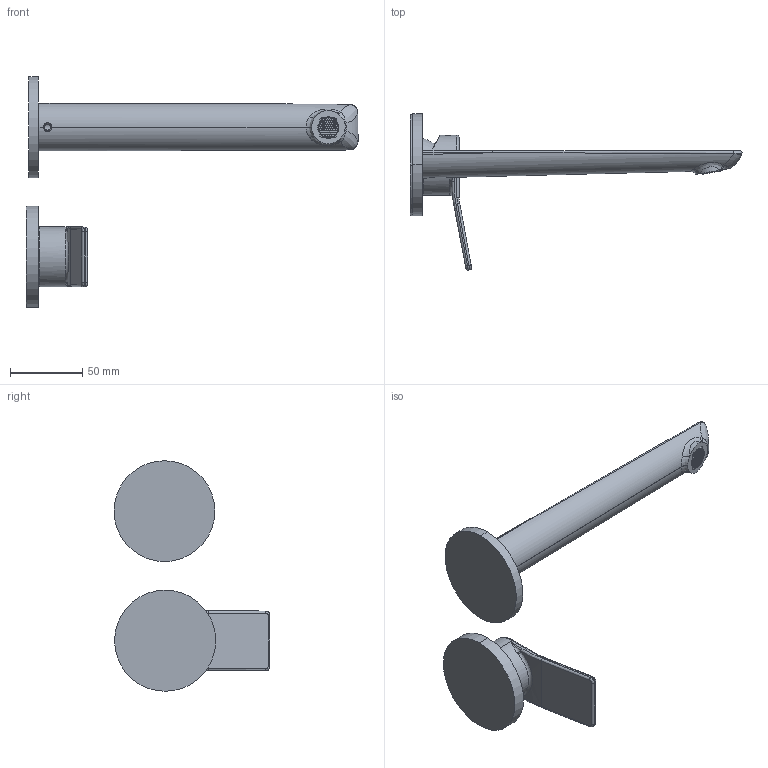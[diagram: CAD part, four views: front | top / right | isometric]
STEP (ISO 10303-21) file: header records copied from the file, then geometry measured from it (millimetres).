
FILE_DESCRIPTION (( 'STEP AP203' ), '1' );
FILE_NAME ('85329610 x architetti.STEP', '2026-04-07T15:17:55', ( '' ), ( '' ), 'SwSTEP 2.0', 'SolidWorks 2020', '' );
FILE_SCHEMA (( 'CONFIG_CONTROL_DESIGN' ));
Length unit declared in the file: millimetre
Products named in the file (1): 85329610 x architetti
Bounding box: 229.78 x 107.93 x 159.56 mm (x, y, z)
Volume: 145655.9 mm3; surface area: 62733.1 mm2
Topology: 4 solids, 4 shells, 1114 faces, 2627 edges, 1514 vertices
Faces by surface type: plane 568, cylinder 388, bspline 129, cone 17, torus 12
Entity records: 41632 total; most frequent: CARTESIAN_POINT 18739, ORIENTED_EDGE 5230, DIRECTION 4080, EDGE_CURVE 2615, VECTOR 1550, LINE 1550, VERTEX_POINT 1514, AXIS2_PLACEMENT_3D 1265
